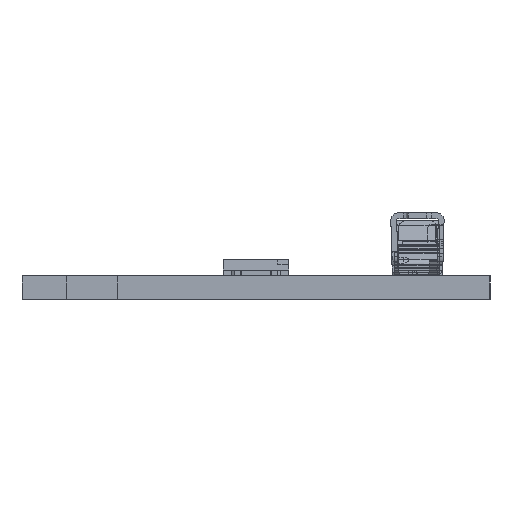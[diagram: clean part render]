
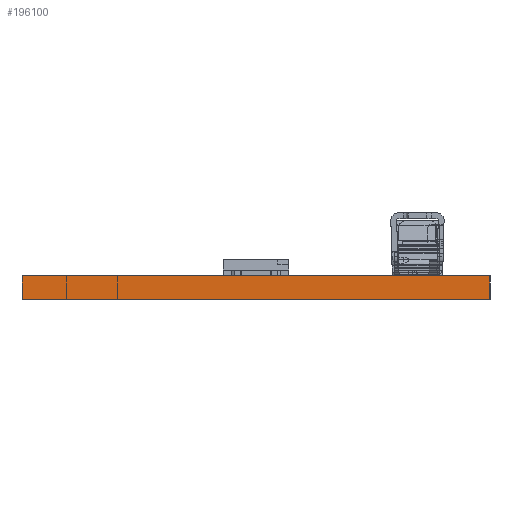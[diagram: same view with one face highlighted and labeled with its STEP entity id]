
A CAD part, left-side view. The second image highlights one B-rep face of the part: STEP entity #196100.
In plain terms, the highlighted planar face has unit normal (-1, 0, 0).
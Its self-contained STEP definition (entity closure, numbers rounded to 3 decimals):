
#182750=CARTESIAN_POINT('',(-19.818,126.455,0.));
#182760=DIRECTION('',(0.,1.,0.));
#182770=VECTOR('',#182760,1.);
#182780=LINE('',#182750,#182770);
#182790=CARTESIAN_POINT('',(-19.818,126.455,0.));
#182800=VERTEX_POINT('',#182790);
#182810=CARTESIAN_POINT('',(-19.818,146.455,0.));
#182820=VERTEX_POINT('',#182810);
#182830=EDGE_CURVE('',#182800,#182820,#182780,.T.);
#195670=CARTESIAN_POINT('',(-19.818,126.455,-1.));
#195680=VERTEX_POINT('',#195670);
#195710=CARTESIAN_POINT('',(-19.818,126.455,0.));
#195720=DIRECTION('',(0.,0.,-1.));
#195730=VECTOR('',#195720,1.);
#195740=LINE('',#195710,#195730);
#195750=EDGE_CURVE('',#182800,#195680,#195740,.T.);
#195870=CARTESIAN_POINT('',(-19.818,126.455,0.));
#195880=DIRECTION('',(1.,0.,0.));
#195890=DIRECTION('',(0.,-1.,0.));
#195900=AXIS2_PLACEMENT_3D('',#195870,#195880,#195890);
#195910=PLANE('',#195900);
#195920=ORIENTED_EDGE('',*,*,#182830,.T.);
#195930=ORIENTED_EDGE('',*,*,#195750,.F.);
#195940=CARTESIAN_POINT('',(-19.818,126.455,-1.));
#195950=DIRECTION('',(0.,1.,0.));
#195960=VECTOR('',#195950,1.);
#195970=LINE('',#195940,#195960);
#195980=CARTESIAN_POINT('',(-19.818,146.455,-1.));
#195990=VERTEX_POINT('',#195980);
#196000=EDGE_CURVE('',#195680,#195990,#195970,.T.);
#196010=ORIENTED_EDGE('',*,*,#196000,.F.);
#196020=CARTESIAN_POINT('',(-19.818,146.455,0.));
#196030=DIRECTION('',(0.,0.,-1.));
#196040=VECTOR('',#196030,1.);
#196050=LINE('',#196020,#196040);
#196060=EDGE_CURVE('',#182820,#195990,#196050,.T.);
#196070=ORIENTED_EDGE('',*,*,#196060,.T.);
#196080=EDGE_LOOP('',(#196070,#196010,#195930,#195920));
#196090=FACE_OUTER_BOUND('',#196080,.T.);
#196100=ADVANCED_FACE('',(#196090),#195910,.F.);
